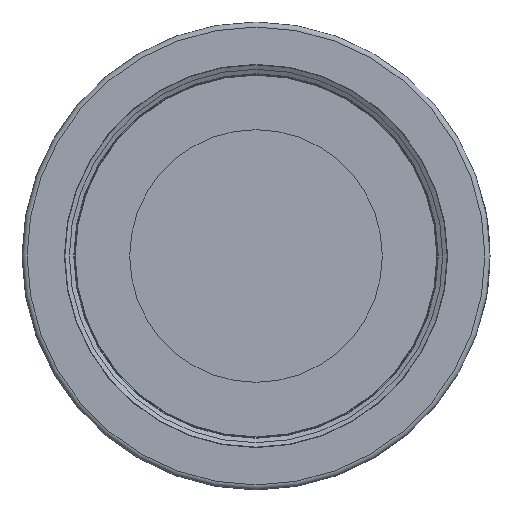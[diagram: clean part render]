
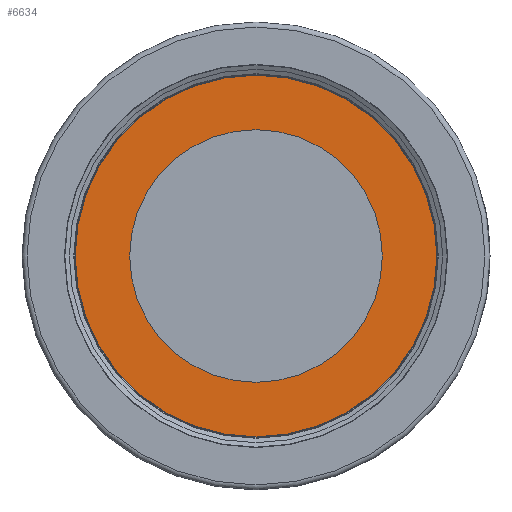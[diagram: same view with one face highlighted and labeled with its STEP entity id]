
A CAD part, left-side view. The second image highlights one B-rep face of the part: STEP entity #6634.
In plain terms, the highlighted planar face has unit normal (-1, 0, 0).
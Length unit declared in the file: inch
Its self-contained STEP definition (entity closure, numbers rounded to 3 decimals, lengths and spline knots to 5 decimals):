
#192=PLANE('',#7115);
#2091=ORIENTED_EDGE('',*,*,#2661,.T.);
#2092=ORIENTED_EDGE('',*,*,#2710,.F.);
#2661=EDGE_CURVE('',#3103,#3103,#3293,.T.);
#2710=EDGE_CURVE('',#3152,#3152,#3342,.T.);
#3103=VERTEX_POINT('',#11846);
#3152=VERTEX_POINT('',#11993);
#3293=CIRCLE('',#7016,2.12504);
#3342=CIRCLE('',#7114,1.28);
#3755=EDGE_LOOP('',(#2091));
#3756=EDGE_LOOP('',(#2092));
#4176=FACE_BOUND('',#3755,.T.);
#4177=FACE_BOUND('',#3756,.T.);
#6634=ADVANCED_FACE('',(#4176,#4177),#192,.F.);
#7016=AXIS2_PLACEMENT_3D('',#11845,#8090,#8091);
#7114=AXIS2_PLACEMENT_3D('',#11992,#8286,#8287);
#7115=AXIS2_PLACEMENT_3D('',#11994,#8288,#8289);
#8090=DIRECTION('',(-1.,0.,0.));
#8091=DIRECTION('',(0.,0.,1.));
#8286=DIRECTION('',(-1.,0.,0.));
#8287=DIRECTION('',(0.,0.,1.));
#8288=DIRECTION('',(1.,0.,0.));
#8289=DIRECTION('',(0.,0.,-1.));
#11845=CARTESIAN_POINT('',(1.349,0.,0.));
#11846=CARTESIAN_POINT('',(1.349,0.,2.12504));
#11992=CARTESIAN_POINT('',(1.349,0.,0.));
#11993=CARTESIAN_POINT('',(1.349,0.,1.28));
#11994=CARTESIAN_POINT('',(1.349,0.,2.12504));
